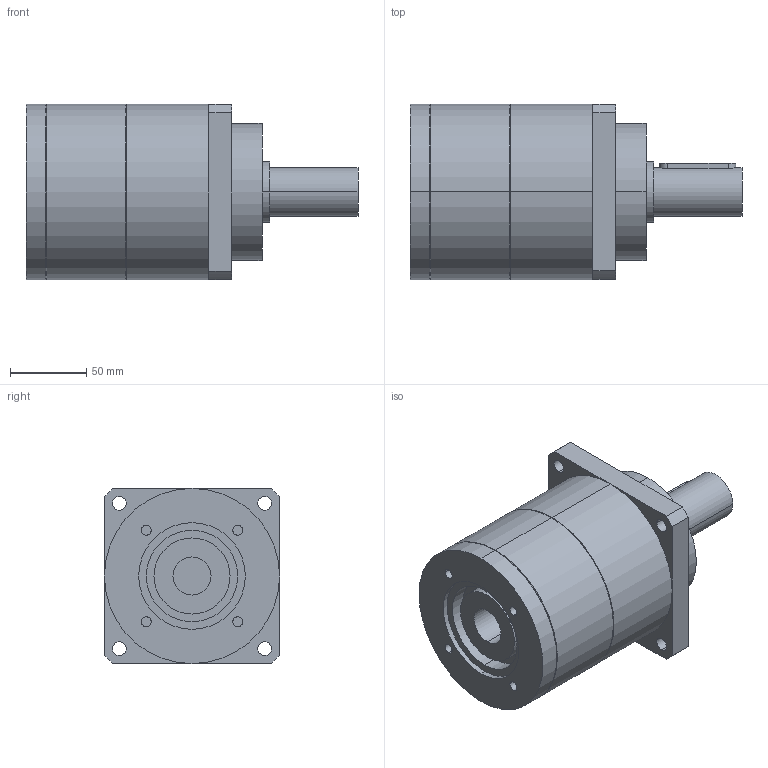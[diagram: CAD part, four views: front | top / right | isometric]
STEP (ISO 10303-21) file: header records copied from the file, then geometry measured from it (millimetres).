
FILE_DESCRIPTION(('CoCreate Modeling STEP Export'),'2;1');
FILE_NAME('GPT120_ig-3-4-5-7-10_32_B5A_25_P03.stp','2015-02-04T17:00:07',(''),(''),'CoCreate Modeling STEP processor for AP214 (Solid Model)','CoCreate Modeling 16.00C 25-Feb-2009 (C) Parametric Technology GmbH','');
FILE_SCHEMA(('AUTOMOTIVE_DESIGN { 1 0 10303 214 1 1 1 1 }'));
Length unit declared in the file: millimetre
Products named in the file (2): GPT120_ig-3-4-5-7-10_32_B5A_25_P03
Assembly tree (1 placements, depth 2):
  GPT120_ig-3-4-5-7-10_32_B5A_25_P03
    GPT120_ig-3-4-5-7-10_32_B5A_25_P03
Bounding box: 218 x 115 x 115 mm (x, y, z)
Volume: 1563212 mm3; surface area: 100627.5 mm2
Topology: 1 solids, 1 shells, 75 faces, 187 edges, 128 vertices
Faces by surface type: cylinder 44, plane 27, cone 4
Entity records: 2360 total; most frequent: CARTESIAN_POINT 721, ORIENTED_EDGE 374, DIRECTION 280, EDGE_CURVE 187, VERTEX_POINT 128, AXIS2_PLACEMENT_3D 105, EDGE_LOOP 97, FACE_OUTER_BOUND 75
